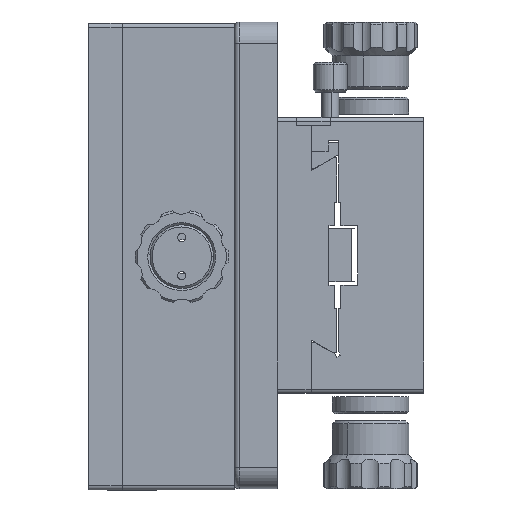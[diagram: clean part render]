
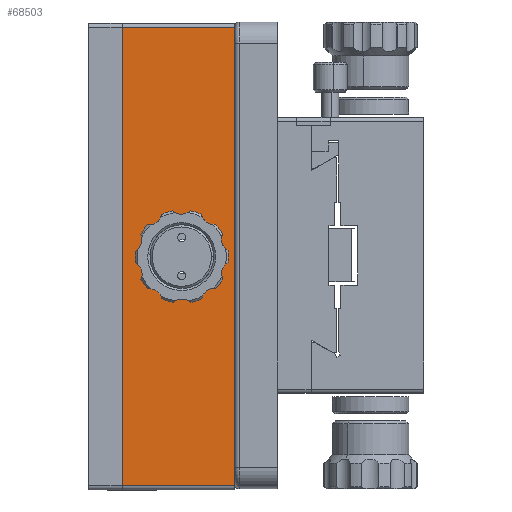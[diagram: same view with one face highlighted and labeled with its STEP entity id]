
A CAD part, left-side view. The second image highlights one B-rep face of the part: STEP entity #68503.
In plain terms, the highlighted planar face has unit normal (-1, 0, 0).
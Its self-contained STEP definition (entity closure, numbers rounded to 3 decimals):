
#613 = PLANE ( 'NONE',  #64531 ) ;
#1405 = VERTEX_POINT ( 'NONE', #2576 ) ;
#1703 = DIRECTION ( 'NONE',  ( 0., 1., 0. ) ) ;
#2576 = CARTESIAN_POINT ( 'NONE',  ( -32.5, 55.3, 53.705 ) ) ;
#6654 = CARTESIAN_POINT ( 'NONE',  ( -32.5, 41.3, -0.295 ) ) ;
#7594 = CARTESIAN_POINT ( 'NONE',  ( -32.5, 33.8, -0.295 ) ) ;
#7682 = VECTOR ( 'NONE', #73909, 1000. ) ;
#8307 = DIRECTION ( 'NONE',  ( -1., 0., 0. ) ) ;
#8829 = VECTOR ( 'NONE', #19051, 1000. ) ;
#10652 = CARTESIAN_POINT ( 'NONE',  ( -32.5, 28.8, 54.705 ) ) ;
#12556 = FACE_BOUND ( 'NONE', #47974, .T. ) ;
#12733 = LINE ( 'NONE', #10652, #8829 ) ;
#15091 = CARTESIAN_POINT ( 'NONE',  ( -32.5, 48.8, -0.295 ) ) ;
#15579 = ORIENTED_EDGE ( 'NONE', *, *, #59364, .F. ) ;
#17137 = ORIENTED_EDGE ( 'NONE', *, *, #57195, .T. ) ;
#19051 = DIRECTION ( 'NONE',  ( 0., 0., 1. ) ) ;
#19474 = DIRECTION ( 'NONE',  ( 0., 0., -1. ) ) ;
#19586 = CARTESIAN_POINT ( 'NONE',  ( -32.5, 55.3, -54.295 ) ) ;
#19823 = ORIENTED_EDGE ( 'NONE', *, *, #63093, .T. ) ;
#24836 = EDGE_CURVE ( 'NONE', #38974, #42159, #55592, .T. ) ;
#25734 = EDGE_CURVE ( 'NONE', #76044, #27267, #74195, .T. ) ;
#25977 = LINE ( 'NONE', #44640, #59222 ) ;
#26792 = DIRECTION ( 'NONE',  ( -1., 0., 0. ) ) ;
#27220 = FACE_OUTER_BOUND ( 'NONE', #42788, .T. ) ;
#27267 = VERTEX_POINT ( 'NONE', #43702 ) ;
#31788 = CARTESIAN_POINT ( 'NONE',  ( -32.5, 55.3, 54.705 ) ) ;
#32885 = CARTESIAN_POINT ( 'NONE',  ( -32.5, 55.3, 53.705 ) ) ;
#38974 = VERTEX_POINT ( 'NONE', #15091 ) ;
#40807 = AXIS2_PLACEMENT_3D ( 'NONE', #64224, #26792, #70526 ) ;
#42159 = VERTEX_POINT ( 'NONE', #7594 ) ;
#42788 = EDGE_LOOP ( 'NONE', ( #17137, #19823, #15579, #51313 ) ) ;
#42966 = AXIS2_PLACEMENT_3D ( 'NONE', #6654, #8307, #45700 ) ;
#43702 = CARTESIAN_POINT ( 'NONE',  ( -32.5, 28.8, -54.295 ) ) ;
#44640 = CARTESIAN_POINT ( 'NONE',  ( -32.5, 55.3, 54.705 ) ) ;
#45095 = VERTEX_POINT ( 'NONE', #59102 ) ;
#45700 = DIRECTION ( 'NONE',  ( 0., 1., 0. ) ) ;
#47974 = EDGE_LOOP ( 'NONE', ( #62996, #59284 ) ) ;
#51313 = ORIENTED_EDGE ( 'NONE', *, *, #25734, .T. ) ;
#54644 = VECTOR ( 'NONE', #1703, 1000. ) ;
#55592 = CIRCLE ( 'NONE', #42966, 7.5 ) ;
#56622 = LINE ( 'NONE', #32885, #54644 ) ;
#56886 = DIRECTION ( 'NONE',  ( 1., 0., 0. ) ) ;
#57195 = EDGE_CURVE ( 'NONE', #27267, #45095, #12733, .T. ) ;
#59102 = CARTESIAN_POINT ( 'NONE',  ( -32.5, 28.8, 53.705 ) ) ;
#59222 = VECTOR ( 'NONE', #62101, 1000. ) ;
#59284 = ORIENTED_EDGE ( 'NONE', *, *, #63546, .F. ) ;
#59364 = EDGE_CURVE ( 'NONE', #76044, #1405, #25977, .T. ) ;
#62101 = DIRECTION ( 'NONE',  ( 0., 0., 1. ) ) ;
#62996 = ORIENTED_EDGE ( 'NONE', *, *, #24836, .F. ) ;
#63093 = EDGE_CURVE ( 'NONE', #45095, #1405, #56622, .T. ) ;
#63546 = EDGE_CURVE ( 'NONE', #42159, #38974, #63555, .T. ) ;
#63555 = CIRCLE ( 'NONE', #40807, 7.5 ) ;
#64224 = CARTESIAN_POINT ( 'NONE',  ( -32.5, 41.3, -0.295 ) ) ;
#64531 = AXIS2_PLACEMENT_3D ( 'NONE', #31788, #56886, #19474 ) ;
#68503 = ADVANCED_FACE ( 'NONE', ( #12556, #27220 ), #613, .F. ) ;
#70526 = DIRECTION ( 'NONE',  ( 0., 1., 0. ) ) ;
#73909 = DIRECTION ( 'NONE',  ( 0., -1., 0. ) ) ;
#74195 = LINE ( 'NONE', #75799, #7682 ) ;
#75799 = CARTESIAN_POINT ( 'NONE',  ( -32.5, 55.3, -54.295 ) ) ;
#76044 = VERTEX_POINT ( 'NONE', #19586 ) ;
